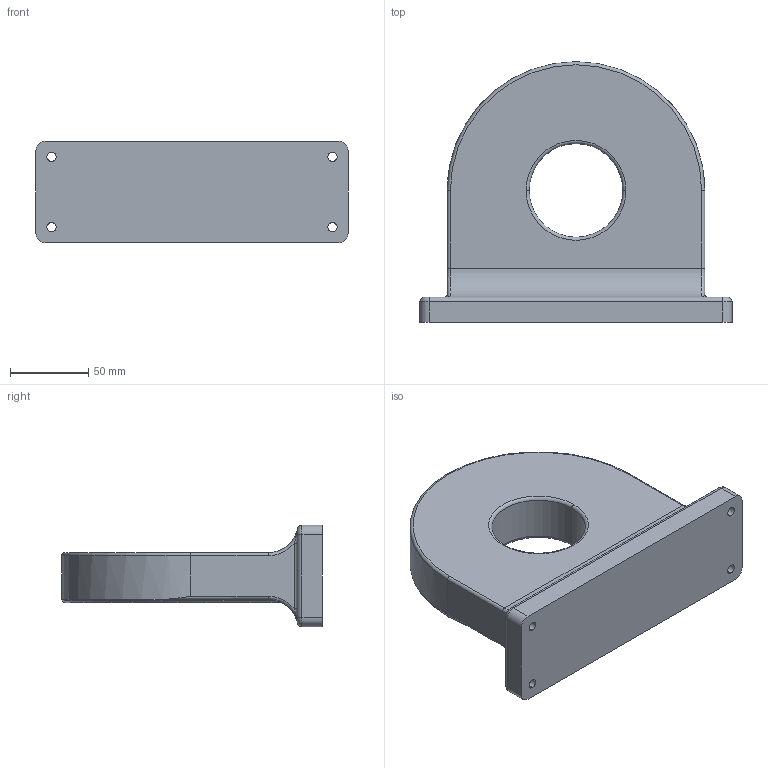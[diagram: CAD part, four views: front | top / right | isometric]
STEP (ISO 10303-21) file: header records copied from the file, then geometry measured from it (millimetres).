
FILE_DESCRIPTION (( 'STEP AP203' ), '1' );
FILE_NAME ('OC-4.STEP', '2016-11-15T10:25:14', ( '' ), ( '' ), 'SwSTEP 2.0', 'SolidWorks 2016', '' );
FILE_SCHEMA (( 'CONFIG_CONTROL_DESIGN' ));
Length unit declared in the file: millimetre
Products named in the file (1): OC-4
Bounding box: 200 x 167 x 65 mm (x, y, z)
Volume: 816240.9 mm3; surface area: 121084 mm2
Topology: 2 solids, 2 shells, 73 faces, 177 edges, 104 vertices
Faces by surface type: cylinder 30, torus 18, plane 13, bspline 12
Entity records: 2848 total; most frequent: CARTESIAN_POINT 1097, DIRECTION 361, ORIENTED_EDGE 346, EDGE_CURVE 173, AXIS2_PLACEMENT_3D 154, VERTEX_POINT 104, CIRCLE 92, EDGE_LOOP 85
